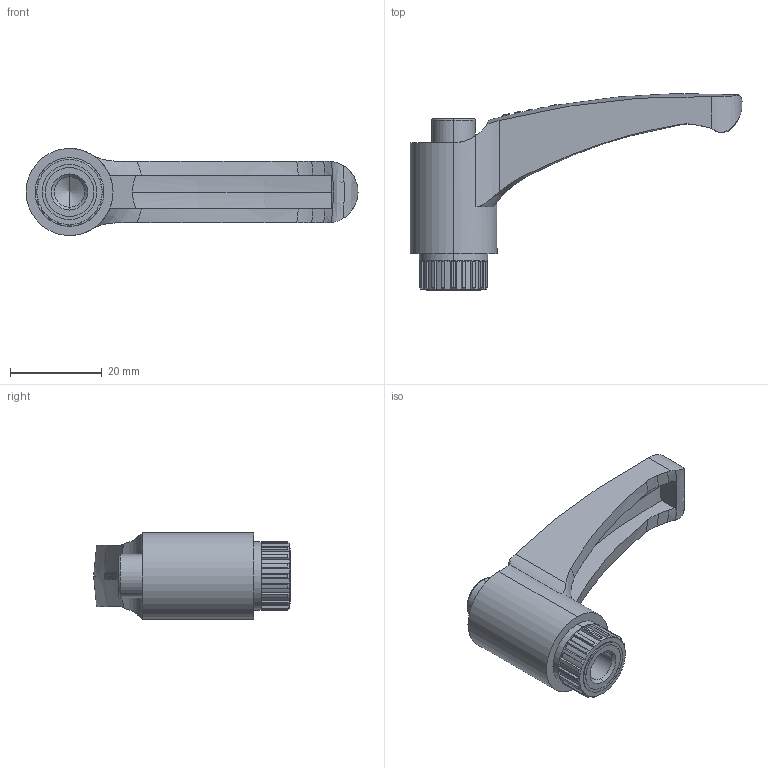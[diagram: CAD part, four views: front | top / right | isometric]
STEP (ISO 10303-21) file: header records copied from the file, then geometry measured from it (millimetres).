
FILE_DESCRIPTION (( 'STEP AP214' ), '1' );
FILE_NAME ('2.9007 Kiinnitysvipu M8 sisäkierteellä.STEP', '2025-09-10T08:08:06', ( '' ), ( '' ), 'SwSTEP 2.0', 'SolidWorks 2025', '' );
FILE_SCHEMA (( 'AUTOMOTIVE_DESIGN' ));
Length unit declared in the file: millimetre
Products named in the file (1): 2.9007 Kiinnitysvipu M8 sisäkierteellä
Bounding box: 72.5 x 42.97 x 19 mm (x, y, z)
Volume: 13318.8 mm3; surface area: 6097.7 mm2
Topology: 1 solids, 1 shells, 175 faces, 495 edges, 316 vertices
Faces by surface type: cylinder 69, plane 54, cone 26, bspline 14, torus 12
Entity records: 6300 total; most frequent: CARTESIAN_POINT 1853, ORIENTED_EDGE 966, DIRECTION 887, EDGE_CURVE 483, AXIS2_PLACEMENT_3D 342, VERTEX_POINT 316, LINE 203, VECTOR 203
